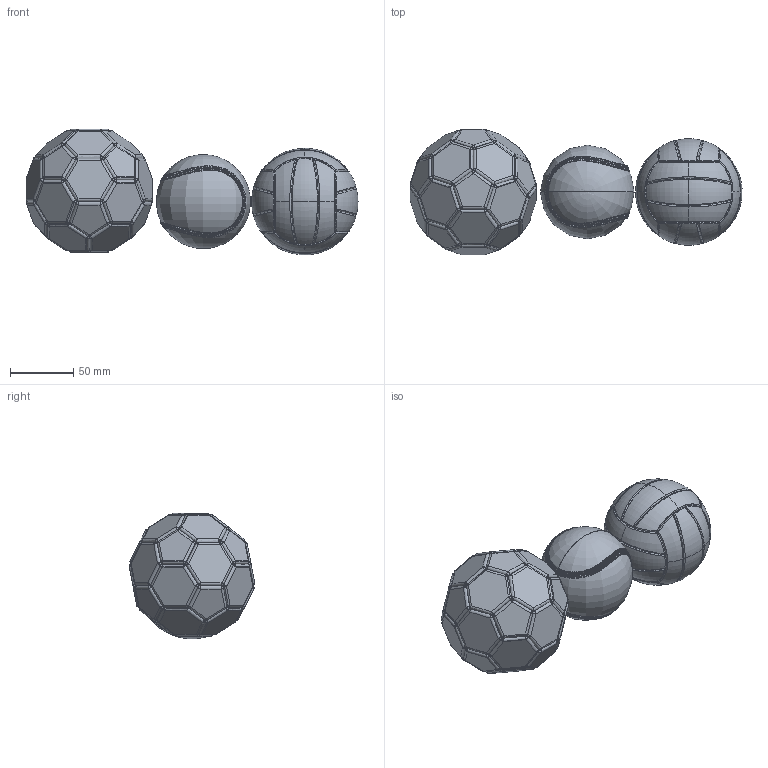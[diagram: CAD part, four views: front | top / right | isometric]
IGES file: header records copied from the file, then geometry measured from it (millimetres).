
Start section: SolidWorks IGES file using analytic representation for surfaces
Global section: file name: C:\Users\oda\Dropbox\calendar\2012\３次元データ\BALL.IGS; native system: SolidWorks 2012; preprocessor: SolidWorks 2012; author: oda; date: 120509.205030; units: millimetre
Bounding box: 261.74 x 98.83 x 98.91 mm (x, y, z)
Surface area: 130191.1 mm2 (no closed solid volume)
Topology: 0 solids, 0 shells, 3942 faces, 28627 edges, 27432 vertices
Faces by surface type: revolution 2597, bspline 1345
